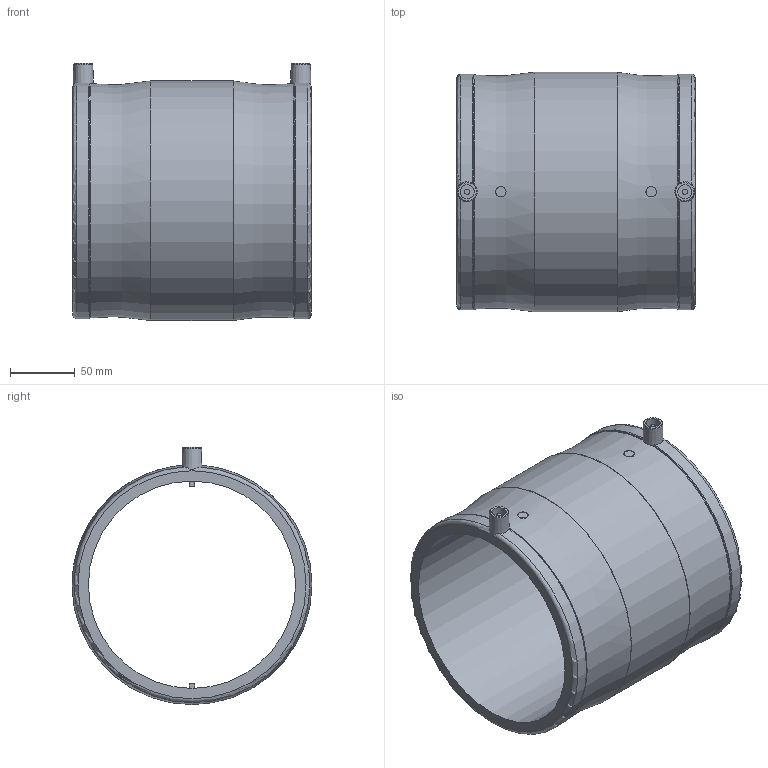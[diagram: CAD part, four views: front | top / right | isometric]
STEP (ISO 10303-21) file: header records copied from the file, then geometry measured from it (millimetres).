
FILE_DESCRIPTION(/* description */ ('Unknown'),/* implementation_level */ '2;1');
FILE_NAME(/* name */ 'MP160A',/* time_stamp */ '2021-05-06T08:24:28+02:00',/* author */ ('Unknown'),/* organization */ ('Unknown'),/* preprocessor_version */ 'ST-DEVELOPER v16.7',/* originating_system */ 'Solid Edge',/* authorisation */ 'Unknown');
FILE_SCHEMA (('AUTOMOTIVE_DESIGN {1 0 10303 214 3 1 1}'));
Length unit declared in the file: millimetre
Products named in the file (1): MP160A
Bounding box: 184 x 185 x 198.5 mm (x, y, z)
Volume: 1107804.5 mm3; surface area: 211452.3 mm2
Topology: 1 solids, 1 shells, 48 faces, 117 edges, 77 vertices
Faces by surface type: plane 20, cylinder 14, torus 12, cone 2
Full cylindrical faces by diameter (mm): 4 x2, 8 x2, 11 x2, 160 x1, 185 x1
Entity records: 1298 total; most frequent: CARTESIAN_POINT 295, DIRECTION 206, ORIENTED_EDGE 168, AXIS2_PLACEMENT_3D 91, EDGE_CURVE 84, EDGE_LOOP 76, FACE_BOUND 76, VERTEX_POINT 64
